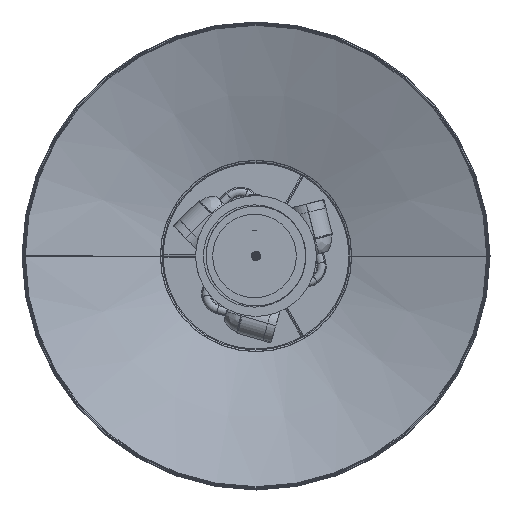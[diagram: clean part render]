
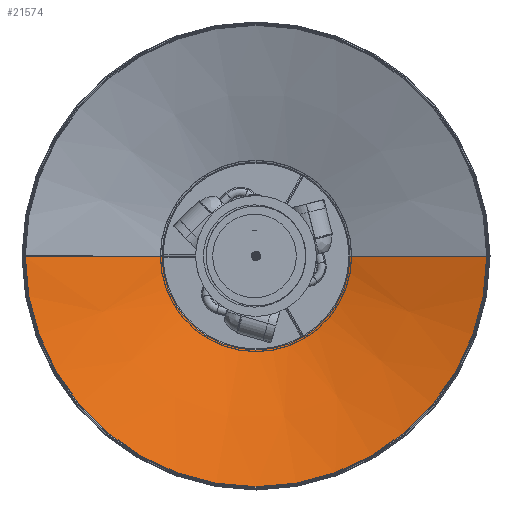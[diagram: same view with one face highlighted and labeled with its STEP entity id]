
A CAD part, front view. The second image highlights one B-rep face of the part: STEP entity #21574.
In plain terms, the highlighted conical face has half-angle 70.873 degrees and reference radius 175.258 mm.
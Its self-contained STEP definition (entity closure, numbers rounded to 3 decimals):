
#20553=CARTESIAN_POINT('',(0.,241.917,0.));
#20554=DIRECTION('',(0.,-1.,0.));
#20555=DIRECTION('',(-1.,0.,0.));
#20556=AXIS2_PLACEMENT_3D('',#20553,#20554,#20555);
#20558=DIRECTION('',(-0.945,0.328,0.));
#20559=VECTOR('',#20558,157.177);
#20560=CARTESIAN_POINT('',(-101.009,241.917,0.));
#20561=LINE('',#20560,#20559);
#20562=DIRECTION('',(0.945,0.328,0.));
#20563=VECTOR('',#20562,157.177);
#20564=CARTESIAN_POINT('',(101.009,241.917,0.));
#20565=LINE('',#20564,#20563);
#20594=CARTESIAN_POINT('',(0.,293.417,0.));
#20595=DIRECTION('',(0.,1.,0.));
#20596=DIRECTION('',(1.,0.,0.));
#20597=AXIS2_PLACEMENT_3D('',#20594,#20595,#20596);
#20886=CARTESIAN_POINT('',(-101.009,241.917,0.));
#20888=VERTEX_POINT('',#20886);
#20891=CARTESIAN_POINT('',(101.009,241.917,
0.));
#20892=VERTEX_POINT('',#20891);
#20893=CARTESIAN_POINT('',(-249.509,293.417,0.));
#20894=VERTEX_POINT('',#20893);
#20895=CARTESIAN_POINT('',(249.509,293.417,0.));
#20896=VERTEX_POINT('',#20895);
#21560=CARTESIAN_POINT('',(0.,267.667,0.));
#21561=DIRECTION('',(0.,1.,0.));
#21562=DIRECTION('',(1.,0.,0.));
#21563=AXIS2_PLACEMENT_3D('',#21560,#21561,#21562);
#21564=CONICAL_SURFACE('',#21563,175.259,70.873);
#21566=ORIENTED_EDGE('',*,*,#21565,.T.);
#21568=ORIENTED_EDGE('',*,*,#21567,.F.);
#21570=ORIENTED_EDGE('',*,*,#21569,.F.);
#21571=ORIENTED_EDGE('',*,*,#21552,.F.);
#21572=EDGE_LOOP('',(#21566,#21568,#21570,#21571));
#21573=FACE_OUTER_BOUND('',#21572,.F.);
#21574=ADVANCED_FACE('',(#21573),#21564,.F.);
#20557=CIRCLE('',#20556,101.009);
#20598=CIRCLE('',#20597,249.509);
#21552=EDGE_CURVE('',#20888,#20892,#20557,.T.);
#21565=EDGE_CURVE('',#20888,#20894,#20561,.T.);
#21567=EDGE_CURVE('',#20896,#20894,#20598,.T.);
#21569=EDGE_CURVE('',#20892,#20896,#20565,.T.);
